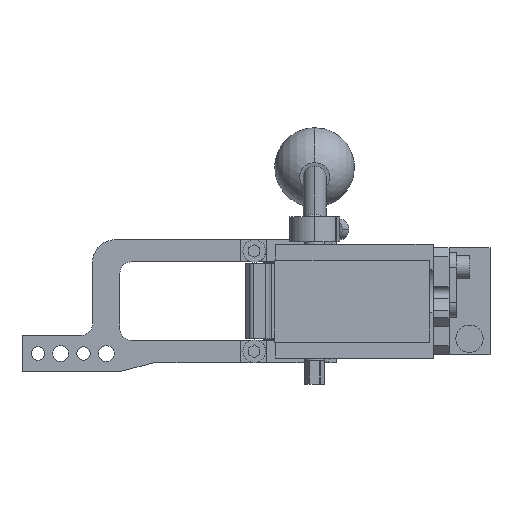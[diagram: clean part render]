
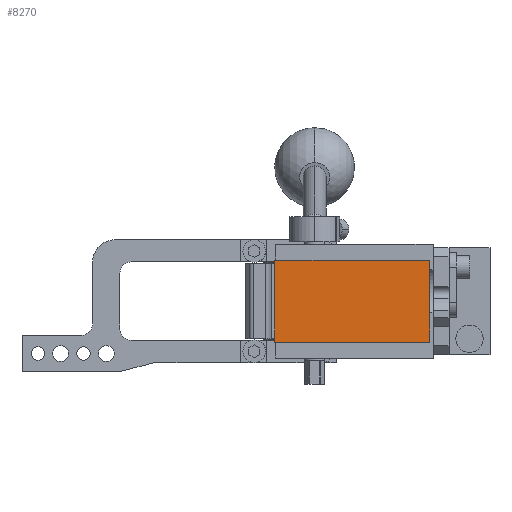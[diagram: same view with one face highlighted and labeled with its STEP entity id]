
A CAD part, front view. The second image highlights one B-rep face of the part: STEP entity #8270.
In plain terms, the highlighted planar face has unit normal (0, -1, 0).
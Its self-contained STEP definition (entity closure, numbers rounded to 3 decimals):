
#276 = LINE ( 'NONE', #440, #10047 ) ;
#440 = CARTESIAN_POINT ( 'NONE',  ( -6., -233., 18. ) ) ;
#688 = DIRECTION ( 'NONE',  ( 1., 0., 0. ) ) ;
#1675 = VERTEX_POINT ( 'NONE', #11684 ) ;
#1793 = LINE ( 'NONE', #7225, #1863 ) ;
#1863 = VECTOR ( 'NONE', #6893, 1000. ) ;
#1962 = ORIENTED_EDGE ( 'NONE', *, *, #7011, .T. ) ;
#2282 = EDGE_LOOP ( 'NONE', ( #4516, #2975, #1962, #12967 ) ) ;
#2733 = CARTESIAN_POINT ( 'NONE',  ( 62., -233., -18. ) ) ;
#2975 = ORIENTED_EDGE ( 'NONE', *, *, #15647, .T. ) ;
#3742 = CARTESIAN_POINT ( 'NONE',  ( -6., -233., -18. ) ) ;
#4318 = DIRECTION ( 'NONE',  ( 0., -1., 0. ) ) ;
#4516 = ORIENTED_EDGE ( 'NONE', *, *, #4572, .T. ) ;
#4572 = EDGE_CURVE ( 'NONE', #1675, #14979, #276, .T. ) ;
#4890 = LINE ( 'NONE', #9983, #16512 ) ;
#5966 = PLANE ( 'NONE',  #11736 ) ;
#6262 = VECTOR ( 'NONE', #688, 1000. ) ;
#6436 = VERTEX_POINT ( 'NONE', #6548 ) ;
#6548 = CARTESIAN_POINT ( 'NONE',  ( 62., -233., 18. ) ) ;
#6893 = DIRECTION ( 'NONE',  ( -1., 0., 0. ) ) ;
#7011 = EDGE_CURVE ( 'NONE', #16106, #6436, #4890, .T. ) ;
#7225 = CARTESIAN_POINT ( 'NONE',  ( -6., -233., 18. ) ) ;
#8153 = EDGE_CURVE ( 'NONE', #6436, #1675, #1793, .T. ) ;
#8270 = ADVANCED_FACE ( 'NONE', ( #8480 ), #5966, .T. ) ;
#8480 = FACE_OUTER_BOUND ( 'NONE', #2282, .T. ) ;
#9408 = DIRECTION ( 'NONE',  ( 0., 0., -1. ) ) ;
#9418 = DIRECTION ( 'NONE',  ( 0., 0., -1. ) ) ;
#9983 = CARTESIAN_POINT ( 'NONE',  ( 62., -233., 18. ) ) ;
#10047 = VECTOR ( 'NONE', #9408, 1000. ) ;
#11684 = CARTESIAN_POINT ( 'NONE',  ( -6., -233., 18. ) ) ;
#11736 = AXIS2_PLACEMENT_3D ( 'NONE', #15740, #4318, #9418 ) ;
#12295 = CARTESIAN_POINT ( 'NONE',  ( -6., -233., -18. ) ) ;
#12967 = ORIENTED_EDGE ( 'NONE', *, *, #8153, .T. ) ;
#14979 = VERTEX_POINT ( 'NONE', #3742 ) ;
#15065 = DIRECTION ( 'NONE',  ( 0., 0., 1. ) ) ;
#15647 = EDGE_CURVE ( 'NONE', #14979, #16106, #15894, .T. ) ;
#15740 = CARTESIAN_POINT ( 'NONE',  ( 0., -233., 0. ) ) ;
#15894 = LINE ( 'NONE', #12295, #6262 ) ;
#16106 = VERTEX_POINT ( 'NONE', #2733 ) ;
#16512 = VECTOR ( 'NONE', #15065, 1000. ) ;
